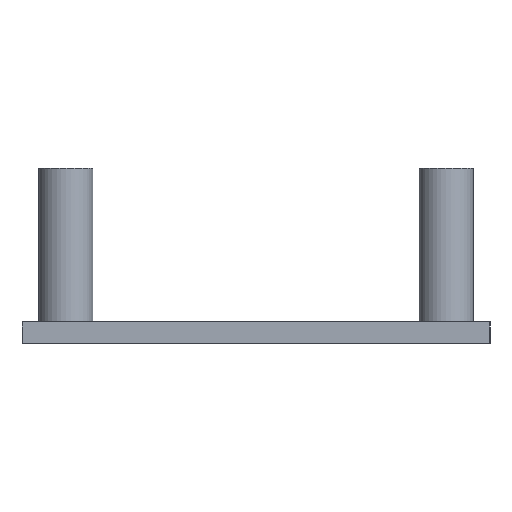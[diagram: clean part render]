
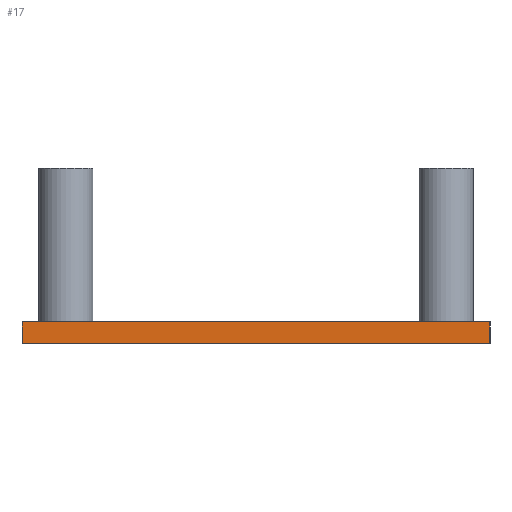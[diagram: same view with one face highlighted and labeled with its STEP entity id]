
A CAD part, left-side view. The second image highlights one B-rep face of the part: STEP entity #17.
In plain terms, the highlighted planar face has unit normal (-1, 0, 0).
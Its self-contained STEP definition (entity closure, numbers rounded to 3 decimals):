
#17 = ADVANCED_FACE('',(#18),#32,.F.);
#18 = FACE_BOUND('',#19,.F.);
#19 = EDGE_LOOP('',(#20,#55,#83,#111));
#20 = ORIENTED_EDGE('',*,*,#21,.F.);
#21 = EDGE_CURVE('',#22,#24,#26,.T.);
#22 = VERTEX_POINT('',#23);
#23 = CARTESIAN_POINT('',(-43.,-32.,71.));
#24 = VERTEX_POINT('',#25);
#25 = CARTESIAN_POINT('',(-43.,-32.,74.));
#26 = SURFACE_CURVE('',#27,(#31,#43),.PCURVE_S1.);
#27 = LINE('',#28,#29);
#28 = CARTESIAN_POINT('',(-43.,-32.,71.));
#29 = VECTOR('',#30,1.);
#30 = DIRECTION('',(0.,0.,1.));
#31 = PCURVE('',#32,#37);
#32 = PLANE('',#33);
#33 = AXIS2_PLACEMENT_3D('',#34,#35,#36);
#34 = CARTESIAN_POINT('',(-43.,-32.,71.));
#35 = DIRECTION('',(1.,0.,0.));
#36 = DIRECTION('',(0.,0.,1.));
#37 = DEFINITIONAL_REPRESENTATION('',(#38),#42);
#38 = LINE('',#39,#40);
#39 = CARTESIAN_POINT('',(0.,0.));
#40 = VECTOR('',#41,1.);
#41 = DIRECTION('',(1.,0.));
#42 = ( GEOMETRIC_REPRESENTATION_CONTEXT(2) 
PARAMETRIC_REPRESENTATION_CONTEXT() REPRESENTATION_CONTEXT('2D SPACE',''
  ) );
#43 = PCURVE('',#44,#49);
#44 = PLANE('',#45);
#45 = AXIS2_PLACEMENT_3D('',#46,#47,#48);
#46 = CARTESIAN_POINT('',(-43.,-32.,71.));
#47 = DIRECTION('',(0.,1.,0.));
#48 = DIRECTION('',(0.,0.,1.));
#49 = DEFINITIONAL_REPRESENTATION('',(#50),#54);
#50 = LINE('',#51,#52);
#51 = CARTESIAN_POINT('',(0.,0.));
#52 = VECTOR('',#53,1.);
#53 = DIRECTION('',(1.,0.));
#54 = ( GEOMETRIC_REPRESENTATION_CONTEXT(2) 
PARAMETRIC_REPRESENTATION_CONTEXT() REPRESENTATION_CONTEXT('2D SPACE',''
  ) );
#55 = ORIENTED_EDGE('',*,*,#56,.T.);
#56 = EDGE_CURVE('',#22,#57,#59,.T.);
#57 = VERTEX_POINT('',#58);
#58 = CARTESIAN_POINT('',(-43.,32.,71.));
#59 = SURFACE_CURVE('',#60,(#64,#71),.PCURVE_S1.);
#60 = LINE('',#61,#62);
#61 = CARTESIAN_POINT('',(-43.,-32.,71.));
#62 = VECTOR('',#63,1.);
#63 = DIRECTION('',(0.,1.,0.));
#64 = PCURVE('',#32,#65);
#65 = DEFINITIONAL_REPRESENTATION('',(#66),#70);
#66 = LINE('',#67,#68);
#67 = CARTESIAN_POINT('',(0.,0.));
#68 = VECTOR('',#69,1.);
#69 = DIRECTION('',(0.,-1.));
#70 = ( GEOMETRIC_REPRESENTATION_CONTEXT(2) 
PARAMETRIC_REPRESENTATION_CONTEXT() REPRESENTATION_CONTEXT('2D SPACE',''
  ) );
#71 = PCURVE('',#72,#77);
#72 = PLANE('',#73);
#73 = AXIS2_PLACEMENT_3D('',#74,#75,#76);
#74 = CARTESIAN_POINT('',(-43.,-32.,71.));
#75 = DIRECTION('',(0.,0.,1.));
#76 = DIRECTION('',(1.,0.,0.));
#77 = DEFINITIONAL_REPRESENTATION('',(#78),#82);
#78 = LINE('',#79,#80);
#79 = CARTESIAN_POINT('',(0.,0.));
#80 = VECTOR('',#81,1.);
#81 = DIRECTION('',(0.,1.));
#82 = ( GEOMETRIC_REPRESENTATION_CONTEXT(2) 
PARAMETRIC_REPRESENTATION_CONTEXT() REPRESENTATION_CONTEXT('2D SPACE',''
  ) );
#83 = ORIENTED_EDGE('',*,*,#84,.T.);
#84 = EDGE_CURVE('',#57,#85,#87,.T.);
#85 = VERTEX_POINT('',#86);
#86 = CARTESIAN_POINT('',(-43.,32.,74.));
#87 = SURFACE_CURVE('',#88,(#92,#99),.PCURVE_S1.);
#88 = LINE('',#89,#90);
#89 = CARTESIAN_POINT('',(-43.,32.,71.));
#90 = VECTOR('',#91,1.);
#91 = DIRECTION('',(0.,0.,1.));
#92 = PCURVE('',#32,#93);
#93 = DEFINITIONAL_REPRESENTATION('',(#94),#98);
#94 = LINE('',#95,#96);
#95 = CARTESIAN_POINT('',(0.,-64.));
#96 = VECTOR('',#97,1.);
#97 = DIRECTION('',(1.,0.));
#98 = ( GEOMETRIC_REPRESENTATION_CONTEXT(2) 
PARAMETRIC_REPRESENTATION_CONTEXT() REPRESENTATION_CONTEXT('2D SPACE',''
  ) );
#99 = PCURVE('',#100,#105);
#100 = PLANE('',#101);
#101 = AXIS2_PLACEMENT_3D('',#102,#103,#104);
#102 = CARTESIAN_POINT('',(-43.,32.,71.));
#103 = DIRECTION('',(0.,1.,0.));
#104 = DIRECTION('',(0.,0.,1.));
#105 = DEFINITIONAL_REPRESENTATION('',(#106),#110);
#106 = LINE('',#107,#108);
#107 = CARTESIAN_POINT('',(0.,0.));
#108 = VECTOR('',#109,1.);
#109 = DIRECTION('',(1.,0.));
#110 = ( GEOMETRIC_REPRESENTATION_CONTEXT(2) 
PARAMETRIC_REPRESENTATION_CONTEXT() REPRESENTATION_CONTEXT('2D SPACE',''
  ) );
#111 = ORIENTED_EDGE('',*,*,#112,.F.);
#112 = EDGE_CURVE('',#24,#85,#113,.T.);
#113 = SURFACE_CURVE('',#114,(#118,#125),.PCURVE_S1.);
#114 = LINE('',#115,#116);
#115 = CARTESIAN_POINT('',(-43.,-32.,74.));
#116 = VECTOR('',#117,1.);
#117 = DIRECTION('',(0.,1.,0.));
#118 = PCURVE('',#32,#119);
#119 = DEFINITIONAL_REPRESENTATION('',(#120),#124);
#120 = LINE('',#121,#122);
#121 = CARTESIAN_POINT('',(3.,0.));
#122 = VECTOR('',#123,1.);
#123 = DIRECTION('',(0.,-1.));
#124 = ( GEOMETRIC_REPRESENTATION_CONTEXT(2) 
PARAMETRIC_REPRESENTATION_CONTEXT() REPRESENTATION_CONTEXT('2D SPACE',''
  ) );
#125 = PCURVE('',#126,#131);
#126 = PLANE('',#127);
#127 = AXIS2_PLACEMENT_3D('',#128,#129,#130);
#128 = CARTESIAN_POINT('',(-43.,-32.,74.));
#129 = DIRECTION('',(0.,0.,1.));
#130 = DIRECTION('',(1.,0.,0.));
#131 = DEFINITIONAL_REPRESENTATION('',(#132),#136);
#132 = LINE('',#133,#134);
#133 = CARTESIAN_POINT('',(0.,0.));
#134 = VECTOR('',#135,1.);
#135 = DIRECTION('',(0.,1.));
#136 = ( GEOMETRIC_REPRESENTATION_CONTEXT(2) 
PARAMETRIC_REPRESENTATION_CONTEXT() REPRESENTATION_CONTEXT('2D SPACE',''
  ) );
